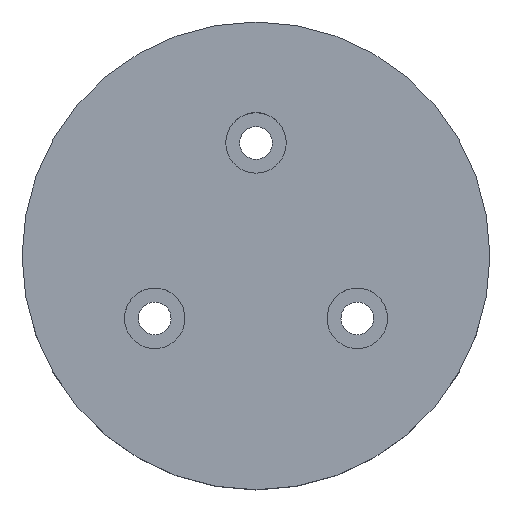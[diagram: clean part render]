
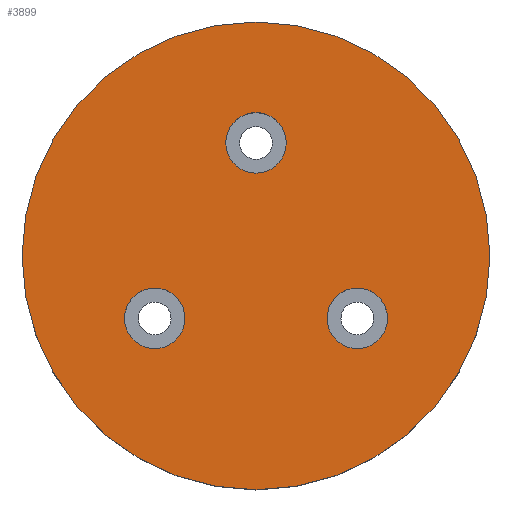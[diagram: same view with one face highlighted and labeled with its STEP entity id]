
A CAD part, top view. The second image highlights one B-rep face of the part: STEP entity #3899.
In plain terms, the highlighted planar face has unit normal (0, 0, 1).
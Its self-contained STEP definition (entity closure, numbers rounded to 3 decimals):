
#1383 = DIRECTION ( 'NONE',  ( 1., 0., 0. ) ) ;
#1384 = DIRECTION ( 'NONE',  ( 0., 0., 1. ) ) ;
#1385 = CARTESIAN_POINT ( 'NONE',  ( -16.498, -9.525, 38.1 ) ) ;
#1386 = AXIS2_PLACEMENT_3D ( 'NONE', #1385, #1384, #1383 ) ;
#1387 = CIRCLE ( 'NONE', #1386, 4.928 ) ;
#1394 = DIRECTION ( 'NONE',  ( 1., 0., 0. ) ) ;
#1395 = DIRECTION ( 'NONE',  ( 0., 0., 1. ) ) ;
#1396 = AXIS2_PLACEMENT_3D ( 'NONE', #1399, #1395, #1394 ) ;
#1399 = CARTESIAN_POINT ( 'NONE',  ( 0., 0.641, 38.1 ) ) ;
#1400 = PLANE ( 'NONE',  #1396 ) ;
#1401 = FACE_OUTER_BOUND ( 'NONE', #3835, .T. ) ;
#1402 = FACE_BOUND ( 'NONE', #3842, .T. ) ;
#1403 = FACE_BOUND ( 'NONE', #3537, .T. ) ;
#1404 = FACE_BOUND ( 'NONE', #3900, .T. ) ;
#1431 = AXIS2_PLACEMENT_3D ( 'NONE', #1520, #1519, #1518 ) ;
#1451 = CIRCLE ( 'NONE', #1431, 4.928 ) ;
#1452 = CARTESIAN_POINT ( 'NONE',  ( 0., 0.641, 38.1 ) ) ;
#1457 = AXIS2_PLACEMENT_3D ( 'NONE', #1517, #1556, #1555 ) ;
#1458 = CIRCLE ( 'NONE', #1457, 4.928 ) ;
#1460 = DIRECTION ( 'NONE',  ( 1., 0., 0. ) ) ;
#1461 = DIRECTION ( 'NONE',  ( 0., 0., 1. ) ) ;
#1462 = AXIS2_PLACEMENT_3D ( 'NONE', #1452, #1461, #1460 ) ;
#1516 = CIRCLE ( 'NONE', #1462, 38.1 ) ;
#1517 = CARTESIAN_POINT ( 'NONE',  ( 16.498, -9.525, 38.1 ) ) ;
#1518 = DIRECTION ( 'NONE',  ( 1., 0., 0. ) ) ;
#1519 = DIRECTION ( 'NONE',  ( 0., 0., 1. ) ) ;
#1520 = CARTESIAN_POINT ( 'NONE',  ( 0., 19.05, 38.1 ) ) ;
#1555 = DIRECTION ( 'NONE',  ( 1., 0., 0. ) ) ;
#1556 = DIRECTION ( 'NONE',  ( 0., 0., 1. ) ) ;
#3107 = VERTEX_POINT ( 'NONE', #4229 ) ;
#3118 = EDGE_CURVE ( 'NONE', #3245, #3107, #4190, .T. ) ;
#3119 = EDGE_CURVE ( 'NONE', #3342, #3343, #4203, .T. ) ;
#3160 = VERTEX_POINT ( 'NONE', #4777 ) ;
#3162 = EDGE_CURVE ( 'NONE', #3160, #3163, #4776, .T. ) ;
#3163 = VERTEX_POINT ( 'NONE', #4771 ) ;
#3245 = VERTEX_POINT ( 'NONE', #4939 ) ;
#3342 = VERTEX_POINT ( 'NONE', #5042 ) ;
#3343 = VERTEX_POINT ( 'NONE', #5041 ) ;
#3537 = EDGE_LOOP ( 'NONE', ( #3538, #3845 ) ) ;
#3538 = ORIENTED_EDGE ( 'NONE', *, *, #3844, .F. ) ;
#3835 = EDGE_LOOP ( 'NONE', ( #3838, #3840 ) ) ;
#3836 = EDGE_CURVE ( 'NONE', #3163, #3160, #1451, .T. ) ;
#3837 = ORIENTED_EDGE ( 'NONE', *, *, #3162, .F. ) ;
#3838 = ORIENTED_EDGE ( 'NONE', *, *, #3841, .T. ) ;
#3840 = ORIENTED_EDGE ( 'NONE', *, *, #3119, .T. ) ;
#3841 = EDGE_CURVE ( 'NONE', #3343, #3342, #1516, .T. ) ;
#3842 = EDGE_LOOP ( 'NONE', ( #3843, #3837 ) ) ;
#3843 = ORIENTED_EDGE ( 'NONE', *, *, #3836, .F. ) ;
#3844 = EDGE_CURVE ( 'NONE', #3107, #3245, #1458, .T. ) ;
#3845 = ORIENTED_EDGE ( 'NONE', *, *, #3118, .F. ) ;
#3855 = ORIENTED_EDGE ( 'NONE', *, *, #4587, .F. ) ;
#3878 = EDGE_CURVE ( 'NONE', #4561, #4586, #1387, .T. ) ;
#3886 = ORIENTED_EDGE ( 'NONE', *, *, #3878, .F. ) ;
#3899 = ADVANCED_FACE ( 'NONE', ( #1404, #1403, #1402, #1401 ), #1400, .T. ) ;
#3900 = EDGE_LOOP ( 'NONE', ( #3886, #3855 ) ) ;
#4190 = CIRCLE ( 'NONE', #4218, 4.928 ) ;
#4191 = CARTESIAN_POINT ( 'NONE',  ( 0., 0.641, 38.1 ) ) ;
#4202 = AXIS2_PLACEMENT_3D ( 'NONE', #4191, #4214, #4213 ) ;
#4203 = CIRCLE ( 'NONE', #4202, 38.1 ) ;
#4213 = DIRECTION ( 'NONE',  ( 1., 0., 0. ) ) ;
#4214 = DIRECTION ( 'NONE',  ( 0., 0., 1. ) ) ;
#4215 = DIRECTION ( 'NONE',  ( 1., 0., 0. ) ) ;
#4216 = DIRECTION ( 'NONE',  ( 0., 0., 1. ) ) ;
#4217 = CARTESIAN_POINT ( 'NONE',  ( 16.498, -9.525, 38.1 ) ) ;
#4218 = AXIS2_PLACEMENT_3D ( 'NONE', #4217, #4216, #4215 ) ;
#4229 = CARTESIAN_POINT ( 'NONE',  ( 21.425, -9.525, 38.1 ) ) ;
#4561 = VERTEX_POINT ( 'NONE', #7389 ) ;
#4586 = VERTEX_POINT ( 'NONE', #7410 ) ;
#4587 = EDGE_CURVE ( 'NONE', #4586, #4561, #7409, .T. ) ;
#4771 = CARTESIAN_POINT ( 'NONE',  ( 4.928, 19.05, 38.1 ) ) ;
#4772 = DIRECTION ( 'NONE',  ( 1., 0., 0. ) ) ;
#4773 = DIRECTION ( 'NONE',  ( 0., 0., 1. ) ) ;
#4774 = CARTESIAN_POINT ( 'NONE',  ( 0., 19.05, 38.1 ) ) ;
#4775 = AXIS2_PLACEMENT_3D ( 'NONE', #4774, #4773, #4772 ) ;
#4776 = CIRCLE ( 'NONE', #4775, 4.928 ) ;
#4777 = CARTESIAN_POINT ( 'NONE',  ( -4.928, 19.05, 38.1 ) ) ;
#4939 = CARTESIAN_POINT ( 'NONE',  ( 11.57, -9.525, 38.1 ) ) ;
#5041 = CARTESIAN_POINT ( 'NONE',  ( -38.1, 0.641, 38.1 ) ) ;
#5042 = CARTESIAN_POINT ( 'NONE',  ( 38.1, 0.641, 38.1 ) ) ;
#7389 = CARTESIAN_POINT ( 'NONE',  ( -11.57, -9.525, 38.1 ) ) ;
#7405 = DIRECTION ( 'NONE',  ( 1., 0., 0. ) ) ;
#7406 = DIRECTION ( 'NONE',  ( 0., 0., 1. ) ) ;
#7407 = CARTESIAN_POINT ( 'NONE',  ( -16.498, -9.525, 38.1 ) ) ;
#7408 = AXIS2_PLACEMENT_3D ( 'NONE', #7407, #7406, #7405 ) ;
#7409 = CIRCLE ( 'NONE', #7408, 4.928 ) ;
#7410 = CARTESIAN_POINT ( 'NONE',  ( -21.425, -9.525, 38.1 ) ) ;
